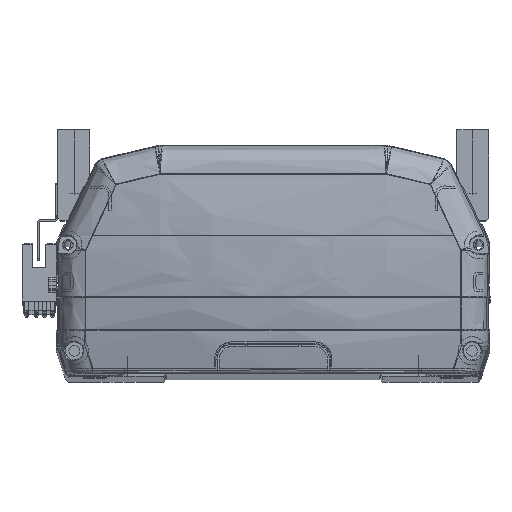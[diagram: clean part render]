
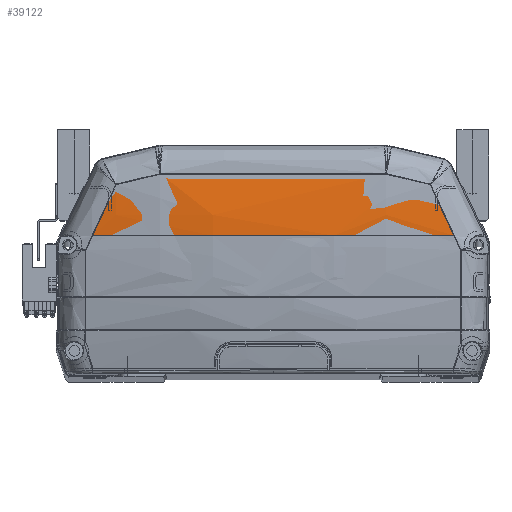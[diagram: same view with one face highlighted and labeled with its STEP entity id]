
A CAD part, top view. The second image highlights one B-rep face of the part: STEP entity #39122.
In plain terms, the highlighted toroidal (fillet/blend) face has major radius 312.5 mm and minor radius 572.4 mm.
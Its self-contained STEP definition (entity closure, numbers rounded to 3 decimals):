
#2545 = B_SPLINE_CURVE_WITH_KNOTS ( 'NONE', 3,
 ( #41504, #42041, #6288, #35081 ),
 .UNSPECIFIED., .F., .F.,
 ( 4, 4 ),
 ( 0., 0.018 ),
 .UNSPECIFIED. ) ;
#3005 = CARTESIAN_POINT ( 'NONE',  ( -64.813, 68.545, -4.11 ) ) ;
#3313 = ORIENTED_EDGE ( 'NONE', *, *, #37653, .T. ) ;
#4857 = CARTESIAN_POINT ( 'NONE',  ( 71.027, 55.096, -4.524 ) ) ;
#6087 = AXIS2_PLACEMENT_3D ( 'NONE', #29006, #38685, #6218 ) ;
#6218 = DIRECTION ( 'NONE',  ( 0., 0., -1. ) ) ;
#6288 = CARTESIAN_POINT ( 'NONE',  ( 55.929, 76.66, -3.711 ) ) ;
#7309 = B_SPLINE_CURVE_WITH_KNOTS ( 'NONE', 3,
 ( #25528, #35769, #22794, #19837 ),
 .UNSPECIFIED., .F., .F.,
 ( 4, 4 ),
 ( 0., 0.018 ),
 .UNSPECIFIED. ) ;
#7442 = EDGE_LOOP ( 'NONE', ( #10224, #3313, #20692, #32431, #40295, #20633 ) ) ;
#8623 = FACE_OUTER_BOUND ( 'NONE', #7442, .T. ) ;
#8813 = VERTEX_POINT ( 'NONE', #4857 ) ;
#9751 = CARTESIAN_POINT ( 'NONE',  ( -61.718, 75.278, -4.232 ) ) ;
#10224 = ORIENTED_EDGE ( 'NONE', *, *, #24438, .F. ) ;
#12051 = CARTESIAN_POINT ( 'NONE',  ( -29.579, 79.39, -1.814 ) ) ;
#12750 = VERTEX_POINT ( 'NONE', #24186 ) ;
#14326 = CARTESIAN_POINT ( 'NONE',  ( 61.718, 75.278, -4.232 ) ) ;
#16016 = B_SPLINE_CURVE_WITH_KNOTS ( 'NONE', 3,
 ( #24688, #12051, #31251, #34232, #34806, #24412 ),
 .UNSPECIFIED., .F., .F.,
 ( 4, 2, 4 ),
 ( 0., 0.044, 0.089 ),
 .UNSPECIFIED. ) ;
#16507 = EDGE_CURVE ( 'NONE', #21933, #8813, #26086, .T. ) ;
#17172 = CARTESIAN_POINT ( 'NONE',  ( -71.027, 55.096, -4.524 ) ) ;
#19317 = CARTESIAN_POINT ( 'NONE',  ( -67.917, 61.816, -4.208 ) ) ;
#19837 = CARTESIAN_POINT ( 'NONE',  ( -44.331, 79.443, -2.97 ) ) ;
#20161 = VERTEX_POINT ( 'NONE', #36006 ) ;
#20633 = ORIENTED_EDGE ( 'NONE', *, *, #28434, .F. ) ;
#20692 = ORIENTED_EDGE ( 'NONE', *, *, #16507, .F. ) ;
#20811 = CARTESIAN_POINT ( 'NONE',  ( 64.811, 68.545, -4.037 ) ) ;
#21239 = CARTESIAN_POINT ( 'NONE',  ( 67.917, 61.809, -4.135 ) ) ;
#21350 = DIRECTION ( 'NONE',  ( 0., 0., 1. ) ) ;
#21933 = VERTEX_POINT ( 'NONE', #38348 ) ;
#22563 = CARTESIAN_POINT ( 'NONE',  ( -71.027, 55.096, -4.524 ) ) ;
#22794 = CARTESIAN_POINT ( 'NONE',  ( -50.132, 78.049, -3.29 ) ) ;
#24186 = CARTESIAN_POINT ( 'NONE',  ( -61.718, 75.278, -4.232 ) ) ;
#24412 = CARTESIAN_POINT ( 'NONE',  ( 44.331, 79.443, -2.97 ) ) ;
#24438 = EDGE_CURVE ( 'NONE', #32649, #12750, #41685, .T. ) ;
#24688 = CARTESIAN_POINT ( 'NONE',  ( -44.331, 79.443, -2.97 ) ) ;
#25528 = CARTESIAN_POINT ( 'NONE',  ( -61.718, 75.278, -4.232 ) ) ;
#26086 = B_SPLINE_CURVE_WITH_KNOTS ( 'NONE', 3,
 ( #14326, #20811, #21239, #30806 ),
 .UNSPECIFIED., .F., .F.,
 ( 4, 4 ),
 ( 0., 0.022 ),
 .UNSPECIFIED. ) ;
#27136 = VERTEX_POINT ( 'NONE', #33662 ) ;
#28434 = EDGE_CURVE ( 'NONE', #12750, #20161, #7309, .T. ) ;
#28973 = CARTESIAN_POINT ( 'NONE',  ( -63.264, 71.911, -4.135 ) ) ;
#29006 = CARTESIAN_POINT ( 'NONE',  ( 0., 55.096, -260. ) ) ;
#30806 = CARTESIAN_POINT ( 'NONE',  ( 71.027, 55.096, -4.524 ) ) ;
#31251 = CARTESIAN_POINT ( 'NONE',  ( -14.788, 79.361, -1.235 ) ) ;
#32431 = ORIENTED_EDGE ( 'NONE', *, *, #37214, .F. ) ;
#32649 = VERTEX_POINT ( 'NONE', #17172 ) ;
#32687 = CARTESIAN_POINT ( 'NONE',  ( -69.472, 58.454, -4.329 ) ) ;
#33662 = CARTESIAN_POINT ( 'NONE',  ( 44.331, 79.443, -2.97 ) ) ;
#34048 = DIRECTION ( 'NONE',  ( 0., 1., 0. ) ) ;
#34232 = CARTESIAN_POINT ( 'NONE',  ( 14.805, 79.361, -1.235 ) ) ;
#34806 = CARTESIAN_POINT ( 'NONE',  ( 29.579, 79.389, -1.814 ) ) ;
#35081 = CARTESIAN_POINT ( 'NONE',  ( 61.718, 75.278, -4.232 ) ) ;
#35283 = EDGE_CURVE ( 'NONE', #20161, #27136, #16016, .T. ) ;
#35750 = CIRCLE ( 'NONE', #36617, 572.4 ) ;
#35769 = CARTESIAN_POINT ( 'NONE',  ( -55.929, 76.661, -3.711 ) ) ;
#36006 = CARTESIAN_POINT ( 'NONE',  ( -44.331, 79.443, -2.97 ) ) ;
#36617 = AXIS2_PLACEMENT_3D ( 'NONE', #40882, #34048, #21350 ) ;
#37214 = EDGE_CURVE ( 'NONE', #27136, #21933, #2545, .T. ) ;
#37653 = EDGE_CURVE ( 'NONE', #32649, #8813, #35750, .T. ) ;
#38348 = CARTESIAN_POINT ( 'NONE',  ( 61.718, 75.278, -4.232 ) ) ;
#38685 = DIRECTION ( 'NONE',  ( 1., 0., 0. ) ) ;
#39122 = ADVANCED_FACE ( 'NONE', ( #8623 ), #41289, .T. ) ;
#40295 = ORIENTED_EDGE ( 'NONE', *, *, #35283, .F. ) ;
#40882 = CARTESIAN_POINT ( 'NONE',  ( 0., 55.096, -572.5 ) ) ;
#41289 = TOROIDAL_SURFACE ( 'NONE', #6087, -312.5, 572.4 ) ;
#41504 = CARTESIAN_POINT ( 'NONE',  ( 44.331, 79.443, -2.97 ) ) ;
#41685 = B_SPLINE_CURVE_WITH_KNOTS ( 'NONE', 3,
 ( #22563, #32687, #19317, #3005, #28973, #9751 ),
 .UNSPECIFIED., .F., .F.,
 ( 4, 2, 4 ),
 ( 0.006, 0.017, 0.029 ),
 .UNSPECIFIED. ) ;
#42041 = CARTESIAN_POINT ( 'NONE',  ( 50.132, 78.049, -3.29 ) ) ;
